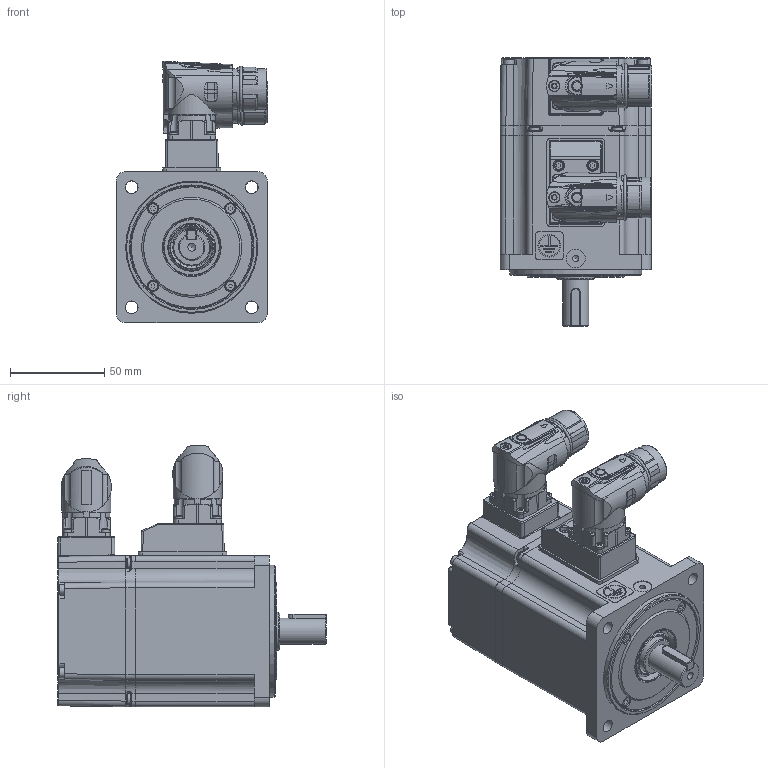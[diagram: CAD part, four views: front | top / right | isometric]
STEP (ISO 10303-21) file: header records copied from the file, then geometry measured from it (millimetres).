
FILE_DESCRIPTION( ( 'Unknown' ), '1' );
FILE_NAME( 'U:/05_Progetto TCE/010-TCE motor drawings/TCE80/vuoti/TCE80 3A XX 3 A2 0 C2.stp', 'Unknown', ( 'Unknown' ), ( 'Unknown' ), 'PSStep 17.0.49', 'Unknown', ' ' );
FILE_SCHEMA( ( 'AUTOMOTIVE_DESIGN { 1 0 10303 214 1 1 1 1 }' ) );
Length unit declared in the file: millimetre
Products named in the file (16): 005204000001
Bounding box: 80.3 x 142 x 138.5 mm (x, y, z)
Volume: 439156 mm3; surface area: 167972 mm2
Topology: 16 solids, 92 shells, 2932 faces, 7356 edges, 4733 vertices
Faces by surface type: plane 1376, cylinder 686, cone 267, bspline 260, torus 199, sphere 106, extrusion 38
Full cylindrical faces by diameter (mm): 1 x21, 1.2 x17, 1.4 x4, 2 x12, 2.013 x3, 2.2 x2, 2.459 x27, 2.5 x11, 2.65 x4, 2.7 x2, 2.8 x4, 3 x32, 3.2 x1, 3.242 x4, 3.5 x16, 4.134 x2, 4.4 x8, 4.5 x2, 4.7 x3, 5.5 x18, 5.8 x1, 5.9 x2, 6 x1, 6.8 x1, 8 x1, 10 x1, 11 x1, 12 x1, 13.3 x1, 14 x1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
Entity records: 121617 total; most frequent: CARTESIAN_POINT 36807, DIRECTION 12944, ORIENTED_EDGE 12918, EDGE_CURVE 6459, AXIS2_PLACEMENT_3D 4895, VERTEX_POINT 4505, EDGE_LOOP 3779, FACE_OUTER_BOUND 3320
